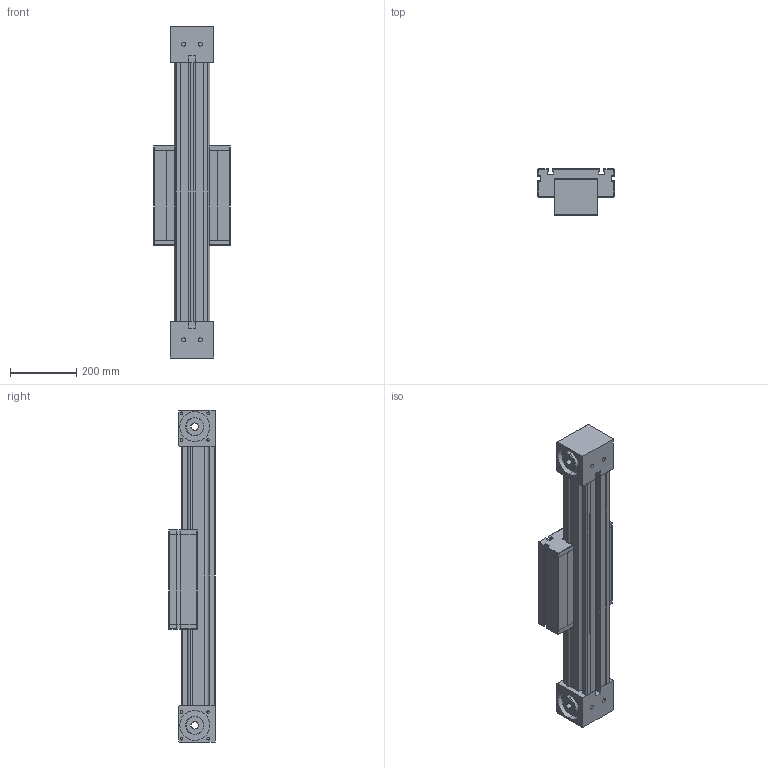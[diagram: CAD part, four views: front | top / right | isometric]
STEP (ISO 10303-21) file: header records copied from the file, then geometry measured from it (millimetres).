
FILE_DESCRIPTION (( 'STEP AP214' ), '1' );
FILE_NAME ('MLZ-100.STEP', '2016-01-14T10:52:30', ( 'admin' ), ( '' ), 'SwSTEP 2.0', 'SolidWorks 2015', '' );
FILE_SCHEMA (( 'AUTOMOTIVE_DESIGN' ));
Length unit declared in the file: millimetre
Products named in the file (5): MLZ-100; Kopie von Bahr-MLZ-MLZ-100  1  0 0 0  09  1  3930_MLZ100 Carriage^MLZ100 S0 A0_A; Kopie von Bahr-MLZ-MLZ-100  1  0 0 0  09  1  3930_MLZ Extrusion 100^MLZ100 S0 A0_0; Kopie von Bahr-MLZ-MLZ-100  1  0 0 0  09  1  3930_MLZ End_Block(2)^MLZ100 S0 A0_MLZ-100-A; Kopie von Bahr-MLZ-MLZ-100  1  0 0 0  09  1  3930_MLZ End_Block(1)^MLZ100 S0 A0_MLZ-100-B
Assembly tree (4 placements, depth 2):
  MLZ-100
    Kopie von Bahr-MLZ-MLZ-100  1  0 0 0  09  1  3930_MLZ End_Block(1)^MLZ100 S0 A0_MLZ-100-B
    Kopie von Bahr-MLZ-MLZ-100  1  0 0 0  09  1  3930_MLZ End_Block(2)^MLZ100 S0 A0_MLZ-100-A
    Kopie von Bahr-MLZ-MLZ-100  1  0 0 0  09  1  3930_MLZ Extrusion 100^MLZ100 S0 A0_0
    Kopie von Bahr-MLZ-MLZ-100  1  0 0 0  09  1  3930_MLZ100 Carriage^MLZ100 S0 A0_A
Bounding box: 230 x 139 x 1000 mm (x, y, z)
Volume: 13685300.8 mm3; surface area: 1084442.1 mm2
Topology: 8 solids, 8 shells, 459 faces, 1209 edges, 786 vertices
Faces by surface type: plane 266, cylinder 173, bspline 8, torus 8, cone 4
Entity records: 14554 total; most frequent: CARTESIAN_POINT 2733, DIRECTION 2459, ORIENTED_EDGE 2402, EDGE_CURVE 1201, VECTOR 827, LINE 827, AXIS2_PLACEMENT_3D 816, VERTEX_POINT 786
